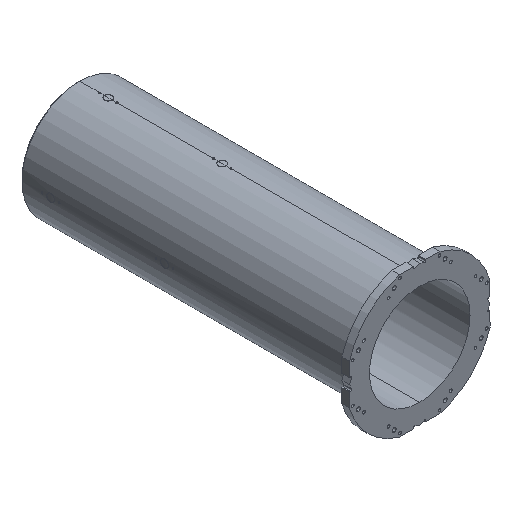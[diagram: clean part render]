
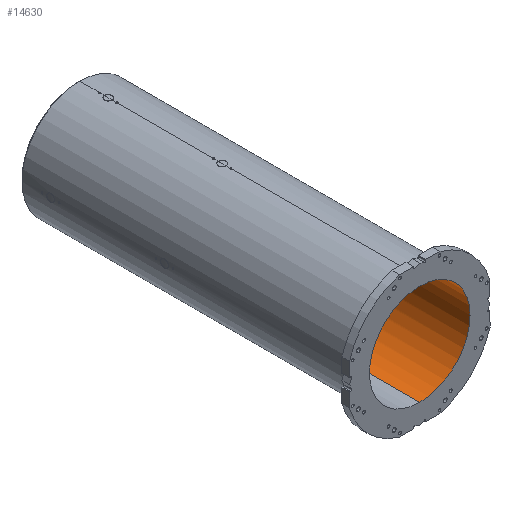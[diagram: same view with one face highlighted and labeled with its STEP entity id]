
A CAD part, isometric view. The second image highlights one B-rep face of the part: STEP entity #14630.
In plain terms, the highlighted cylindrical face has radius 265 mm (diameter 530 mm), a partial arc.
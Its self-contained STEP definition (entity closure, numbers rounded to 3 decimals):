
#100 = CARTESIAN_POINT ( 'NONE',  ( 0., 0., 0. ) ) ;
#199 = CARTESIAN_POINT ( 'NONE',  ( 0., 0., 265. ) ) ;
#212 = AXIS2_PLACEMENT_3D ( 'NONE', #1476, #15143, #6393 ) ;
#255 = CIRCLE ( 'NONE', #2650, 265. ) ;
#959 = CARTESIAN_POINT ( 'NONE',  ( 0., 1763., 265. ) ) ;
#1126 = DIRECTION ( 'NONE',  ( 0., 0., 1. ) ) ;
#1476 = CARTESIAN_POINT ( 'NONE',  ( 0., 0., 0. ) ) ;
#2650 = AXIS2_PLACEMENT_3D ( 'NONE', #9923, #12728, #1126 ) ;
#3008 = VECTOR ( 'NONE', #5043, 1000. ) ;
#3697 = VERTEX_POINT ( 'NONE', #6208 ) ;
#3708 = LINE ( 'NONE', #199, #3008 ) ;
#4510 = LINE ( 'NONE', #13183, #14342 ) ;
#5012 = AXIS2_PLACEMENT_3D ( 'NONE', #100, #6508, #9138 ) ;
#5043 = DIRECTION ( 'NONE',  ( 0., 1., 0. ) ) ;
#5673 = CARTESIAN_POINT ( 'NONE',  ( 0., 1763., -265. ) ) ;
#6208 = CARTESIAN_POINT ( 'NONE',  ( 0., 0., -265. ) ) ;
#6393 = DIRECTION ( 'NONE',  ( 0., 0., 1. ) ) ;
#6508 = DIRECTION ( 'NONE',  ( 0., 1., 0. ) ) ;
#6570 = EDGE_CURVE ( 'NONE', #10676, #3697, #9229, .T. ) ;
#7088 = ORIENTED_EDGE ( 'NONE', *, *, #6570, .F. ) ;
#8559 = EDGE_CURVE ( 'NONE', #12197, #9825, #255, .T. ) ;
#9138 = DIRECTION ( 'NONE',  ( 0., 0., 1. ) ) ;
#9229 = CIRCLE ( 'NONE', #5012, 265. ) ;
#9554 = DIRECTION ( 'NONE',  ( 0., 1., 0. ) ) ;
#9825 = VERTEX_POINT ( 'NONE', #5673 ) ;
#9854 = CARTESIAN_POINT ( 'NONE',  ( 0., 0., 265. ) ) ;
#9923 = CARTESIAN_POINT ( 'NONE',  ( 0., 1763., 0. ) ) ;
#10676 = VERTEX_POINT ( 'NONE', #9854 ) ;
#11205 = EDGE_CURVE ( 'NONE', #3697, #9825, #4510, .T. ) ;
#11263 = FACE_OUTER_BOUND ( 'NONE', #12167, .T. ) ;
#11586 = CYLINDRICAL_SURFACE ( 'NONE', #212, 265. ) ;
#11790 = EDGE_CURVE ( 'NONE', #10676, #12197, #3708, .T. ) ;
#12167 = EDGE_LOOP ( 'NONE', ( #14537, #7088, #12591, #15154 ) ) ;
#12197 = VERTEX_POINT ( 'NONE', #959 ) ;
#12591 = ORIENTED_EDGE ( 'NONE', *, *, #11790, .T. ) ;
#12728 = DIRECTION ( 'NONE',  ( 0., 1., 0. ) ) ;
#13183 = CARTESIAN_POINT ( 'NONE',  ( 0., 0., -265. ) ) ;
#14342 = VECTOR ( 'NONE', #9554, 1000. ) ;
#14537 = ORIENTED_EDGE ( 'NONE', *, *, #11205, .F. ) ;
#14630 = ADVANCED_FACE ( 'NONE', ( #11263 ), #11586, .F. ) ;
#15143 = DIRECTION ( 'NONE',  ( 0., 1., 0. ) ) ;
#15154 = ORIENTED_EDGE ( 'NONE', *, *, #8559, .T. ) ;
